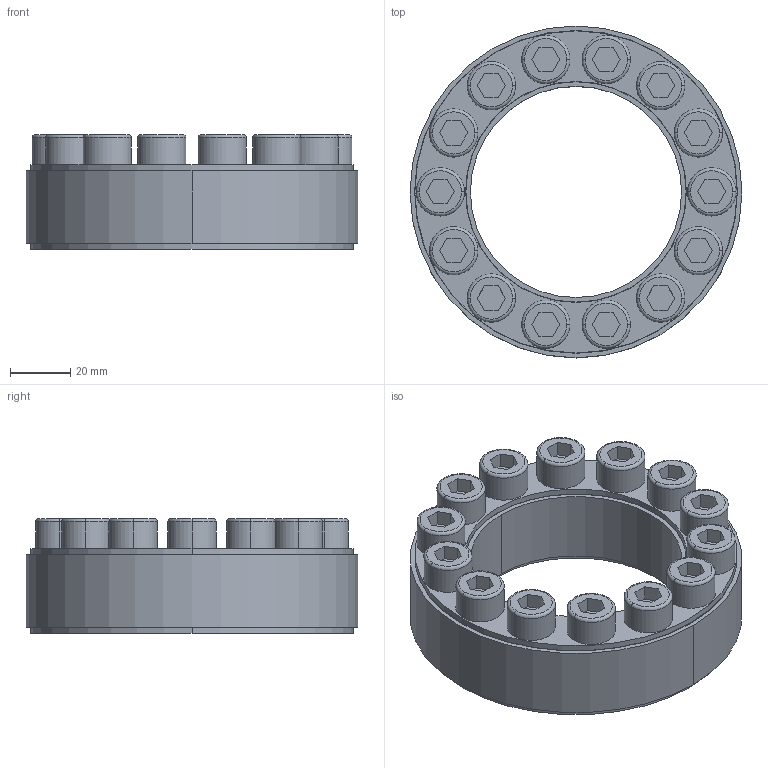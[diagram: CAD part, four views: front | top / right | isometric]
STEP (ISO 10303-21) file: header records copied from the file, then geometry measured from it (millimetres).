
FILE_DESCRIPTION((''),'2;1');
FILE_NAME('398-017-0070','2024-02-16T',('Brieden'),('Brieden'),'PRO/ENGINEER BY PARAMETRIC TECHNOLOGY CORPORATION, 2010160','PRO/ENGINEER BY PARAMETRIC TECHNOLOGY CORPORATION, 2010160','');
FILE_SCHEMA(('AUTOMOTIVE_DESIGN { 1 0 10303 214 1 1 1 1 }'));
Length unit declared in the file: millimetre
Products named in the file (1): 398-017-0070
Bounding box: 110 x 110 x 38 mm (x, y, z)
Volume: 168615.8 mm3; surface area: 82585.4 mm2
Topology: 4 solids, 4 shells, 348 faces, 780 edges, 496 vertices
Faces by surface type: plane 148, cylinder 128, cone 44, torus 28
Entity records: 12374 total; most frequent: DIRECTION 1834, CARTESIAN_POINT 1626, ORIENTED_EDGE 1560, PRESENTATION_STYLE_ASSIGNMENT 802, STYLED_ITEM 784, CURVE_STYLE 780, EDGE_CURVE 780, AXIS2_PLACEMENT_3D 705
